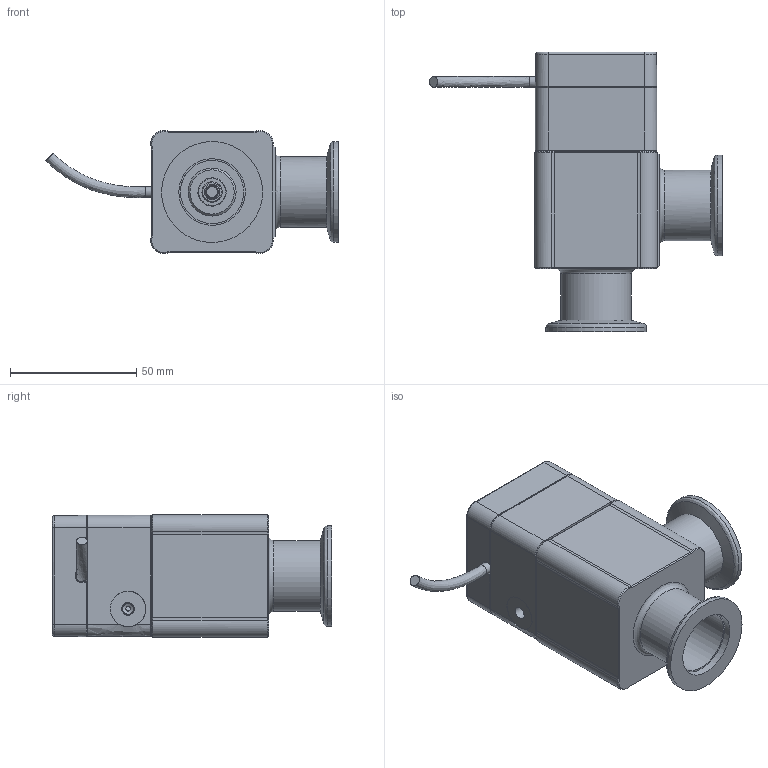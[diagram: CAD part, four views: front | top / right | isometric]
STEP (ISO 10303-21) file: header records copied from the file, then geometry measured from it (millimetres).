
FILE_DESCRIPTION((''),'2;1');
FILE_NAME('C:\TEMP\IDEAS\240256.stp','2006-09-19T15:44:53',('User'),( 'SDRC'),'I-DEAS Master Series 9','UNIX','Yes');
FILE_SCHEMA(('CONFIG_CONTROL_DESIGN'));
Length unit declared in the file: millimetre
Assembly tree (11 placements, depth 0):
Bounding box: 115.88 x 110.6 x 48.6 mm (x, y, z)
Volume: 109658.3 mm3; surface area: 63951 mm2
Topology: 19 solids, 19 shells, 563 faces, 1340 edges, 851 vertices
Faces by surface type: bspline 563
Entity records: 17461 total; most frequent: CARTESIAN_POINT 9339, ORIENTED_EDGE 2360, EDGE_CURVE 1180, VERTEX_POINT 751, EDGE_LOOP 561, FACE_OUTER_BOUND 488, ADVANCED_FACE 488, QUASI_UNIFORM_CURVE 402
